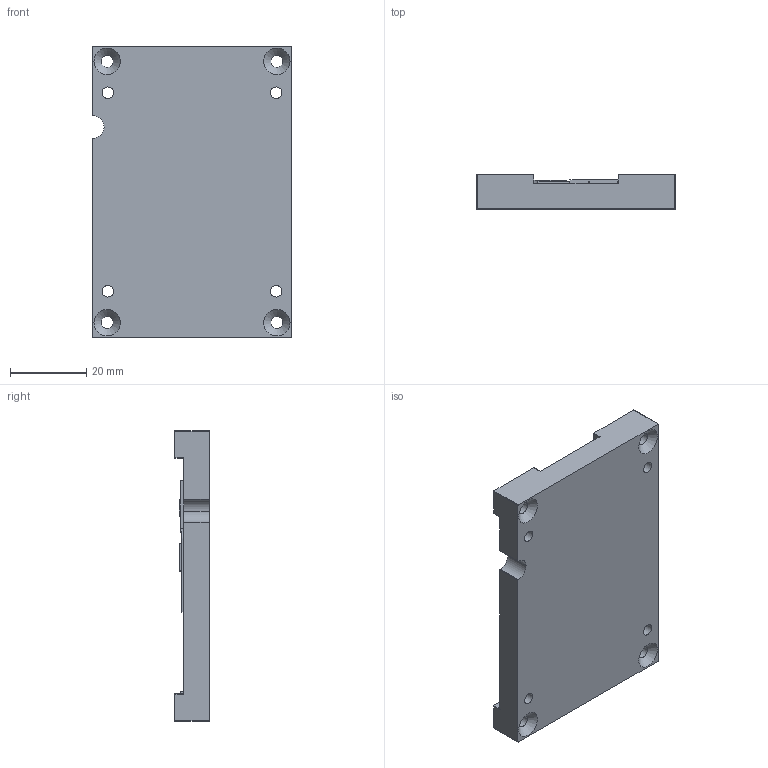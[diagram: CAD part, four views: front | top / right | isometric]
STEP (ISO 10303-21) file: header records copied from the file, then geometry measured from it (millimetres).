
FILE_DESCRIPTION(/* description */ (''),/* implementation_level */ '2;1');
FILE_NAME(/* name */ 'KK0729-02-2016-07-20',/* time_stamp */ '2016-07-20T20:17:50+02:00',/* author */ (''),/* organization */ (''),/* preprocessor_version */ 'ST-DEVELOPER v15.7',/* originating_system */ 'HiCAD 2014 1902.0 Build 420',/* authorisation */ '');
FILE_SCHEMA (('AUTOMOTIVE_DESIGN { 1 0 10303 214 1 1 1 1 }'));
Length unit declared in the file: millimetre
Bounding box: 52 x 9 x 76 mm (x, y, z)
Volume: 27098 mm3; surface area: 10934.9 mm2
Topology: 1 solids, 1 shells, 140 faces, 389 edges, 258 vertices
Faces by surface type: cylinder 70, plane 62, cone 8
Full cylindrical faces by diameter (mm): 2.387 x4, 3 x8, 3.2 x4
Entity records: 7972 total; most frequent: DIRECTION 785, CARTESIAN_POINT 751, PRESENTATION_STYLE_ASSIGNMENT 715, COLOUR_RGB 715, DRAUGHTING_PRE_DEFINED_CURVE_FONT 714, CURVE_STYLE 714, OVER_RIDING_STYLED_ITEM 714, ORIENTED_EDGE 714
